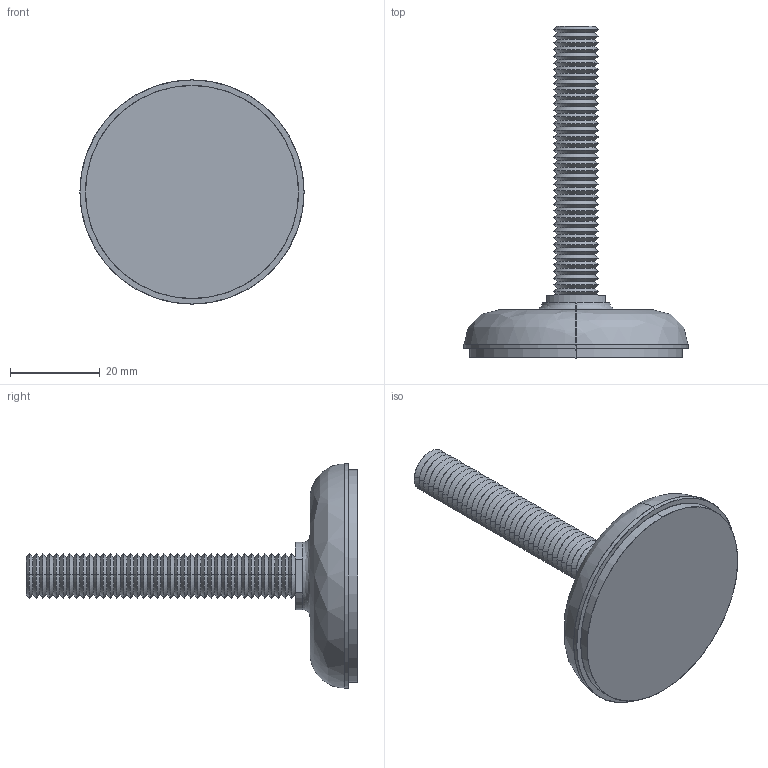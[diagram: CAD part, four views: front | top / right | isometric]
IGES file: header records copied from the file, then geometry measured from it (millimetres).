
Start section: SolidWorks IGES file using analytic representation for surfaces
Global section: file name: C:\Documents and Settings\IANO\Desktop\Temp File\Process pending\EXISTING\34780_v2\34780_v2_20170626_IGES\34780.W0108.igs; native system: SolidWorks 2009; preprocessor: SolidWorks 2009; author: IANO; date: 170626.122310; units: millimetre
Bounding box: 50 x 74 x 50 mm (x, y, z)
Surface area: 17583.9 mm2 (no closed solid volume)
Topology: 0 solids, 0 shells, 228 faces, 1858 edges, 1858 vertices
Faces by surface type: revolution 200, bspline 28
